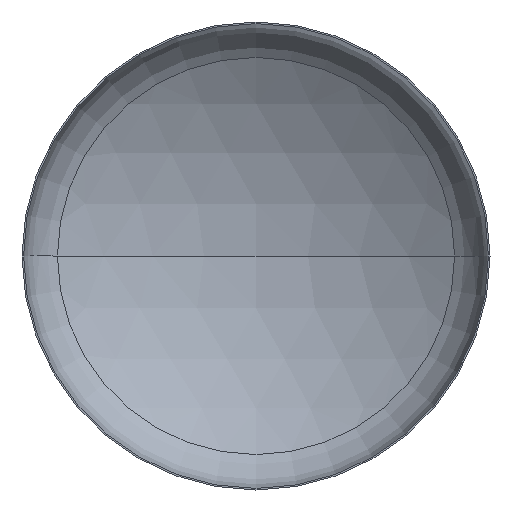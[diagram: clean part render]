
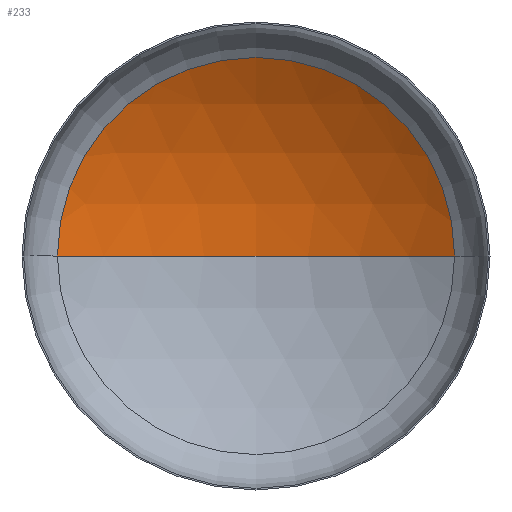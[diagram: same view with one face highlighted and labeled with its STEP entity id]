
A CAD part, front view. The second image highlights one B-rep face of the part: STEP entity #233.
In plain terms, the highlighted spherical face has radius 1920 mm.
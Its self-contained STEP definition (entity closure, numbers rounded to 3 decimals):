
#6 = EDGE_LOOP ( 'NONE', ( #13, #118, #112 ) ) ;
#13 = ORIENTED_EDGE ( 'NONE', *, *, #124, .F. ) ;
#14 = CARTESIAN_POINT ( 'NONE',  ( 0., 338.684, 0. ) ) ;
#18 = AXIS2_PLACEMENT_3D ( 'NONE', #250, #184, #55 ) ;
#39 = AXIS2_PLACEMENT_3D ( 'NONE', #304, #199, #208 ) ;
#44 = AXIS2_PLACEMENT_3D ( 'NONE', #164, #332, #278 ) ;
#45 = VERTEX_POINT ( 'NONE', #293 ) ;
#50 = AXIS2_PLACEMENT_3D ( 'NONE', #14, #275, #212 ) ;
#55 = DIRECTION ( 'NONE',  ( -1., 0., 0. ) ) ;
#104 = EDGE_CURVE ( 'NONE', #114, #194, #171, .T. ) ;
#112 = ORIENTED_EDGE ( 'NONE', *, *, #104, .T. ) ;
#114 = VERTEX_POINT ( 'NONE', #203 ) ;
#116 = EDGE_CURVE ( 'NONE', #45, #114, #354, .T. ) ;
#118 = ORIENTED_EDGE ( 'NONE', *, *, #116, .T. ) ;
#124 = EDGE_CURVE ( 'NONE', #45, #194, #411, .T. ) ;
#164 = CARTESIAN_POINT ( 'NONE',  ( 0., -1289.084, 0. ) ) ;
#171 = CIRCLE ( 'NONE', #50, 1018.219 ) ;
#184 = DIRECTION ( 'NONE',  ( 0., 0., -1. ) ) ;
#194 = VERTEX_POINT ( 'NONE', #287 ) ;
#199 = DIRECTION ( 'NONE',  ( 0., 0., 1. ) ) ;
#203 = CARTESIAN_POINT ( 'NONE',  ( 1018.219, 338.684, 0. ) ) ;
#208 = DIRECTION ( 'NONE',  ( 1., 0., 0. ) ) ;
#212 = DIRECTION ( 'NONE',  ( 1., 0., 0. ) ) ;
#215 = FACE_OUTER_BOUND ( 'NONE', #6, .T. ) ;
#233 = ADVANCED_FACE ( 'NONE', ( #215 ), #340, .F. ) ;
#250 = CARTESIAN_POINT ( 'NONE',  ( 0., -1289.084, 0. ) ) ;
#275 = DIRECTION ( 'NONE',  ( 0., -1., 0. ) ) ;
#278 = DIRECTION ( 'NONE',  ( -1., 0., 0. ) ) ;
#287 = CARTESIAN_POINT ( 'NONE',  ( -1018.219, 338.684, 0. ) ) ;
#293 = CARTESIAN_POINT ( 'NONE',  ( 0., 630.916, 0. ) ) ;
#304 = CARTESIAN_POINT ( 'NONE',  ( 0., -1289.084, 0. ) ) ;
#332 = DIRECTION ( 'NONE',  ( 0., 0., -1. ) ) ;
#340 = SPHERICAL_SURFACE ( 'NONE', #18, 1920. ) ;
#354 = CIRCLE ( 'NONE', #44, 1920. ) ;
#411 = CIRCLE ( 'NONE', #39, 1920. ) ;
